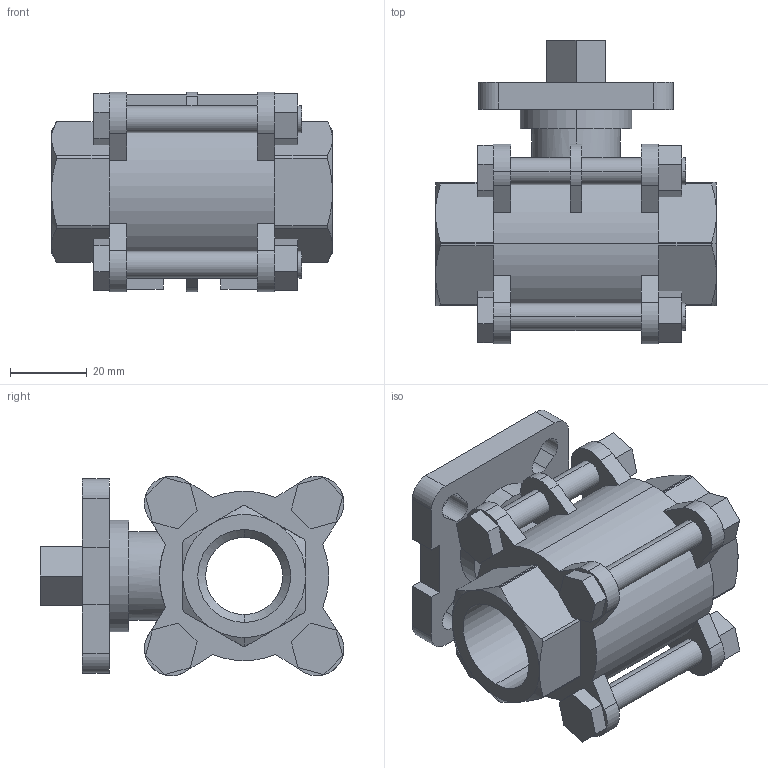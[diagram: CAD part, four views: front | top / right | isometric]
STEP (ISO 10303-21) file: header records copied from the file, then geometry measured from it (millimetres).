
FILE_DESCRIPTION (( 'STEP AP203' ), '1' );
FILE_NAME ('C3.622I0200FVPB0.STEP', '2018-10-12T11:55:42', ( '' ), ( '' ), 'SwSTEP 2.0', 'SolidWorks 2014', '' );
FILE_SCHEMA (( 'CONFIG_CONTROL_DESIGN' ));
Length unit declared in the file: millimetre
Products named in the file (1): C3.622I0200FVPB0
Bounding box: 73 x 78.9 x 51.83 mm (x, y, z)
Volume: 104048.9 mm3; surface area: 31945.1 mm2
Topology: 1 solids, 1 shells, 231 faces, 612 edges, 401 vertices
Faces by surface type: plane 136, cylinder 77, cone 18
Entity records: 7472 total; most frequent: CARTESIAN_POINT 1495, DIRECTION 1233, ORIENTED_EDGE 1224, EDGE_CURVE 612, AXIS2_PLACEMENT_3D 419, VERTEX_POINT 401, VECTOR 395, LINE 395
